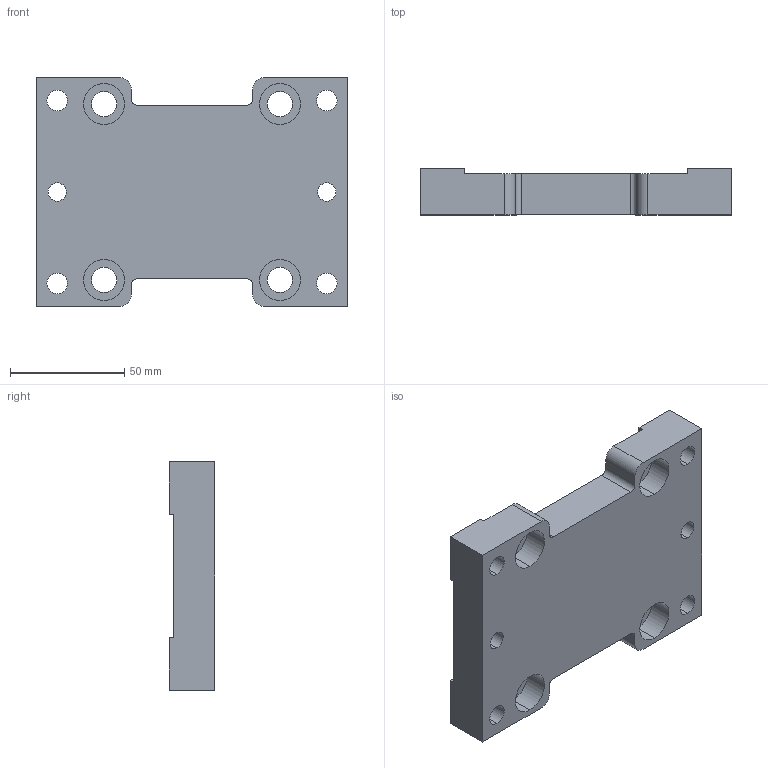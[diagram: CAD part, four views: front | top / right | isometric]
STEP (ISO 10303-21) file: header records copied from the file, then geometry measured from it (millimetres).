
FILE_DESCRIPTION (( 'STEP AP203' ), '1' );
FILE_NAME ('T80S.step', '2017-02-15T12:26:28', ( '' ), ( '' ), 'SwSTEP 2.0', 'SolidWorks 2012', '' );
FILE_SCHEMA (( 'CONFIG_CONTROL_DESIGN' ));
Length unit declared in the file: millimetre
Products named in the file (1): T80S
Bounding box: 136 x 20 x 100 mm (x, y, z)
Volume: 200709.3 mm3; surface area: 40190.7 mm2
Topology: 1 solids, 1 shells, 78 faces, 204 edges, 136 vertices
Faces by surface type: cylinder 44, plane 34
Entity records: 2553 total; most frequent: DIRECTION 450, CARTESIAN_POINT 419, ORIENTED_EDGE 408, EDGE_CURVE 204, AXIS2_PLACEMENT_3D 167, VERTEX_POINT 136, LINE 116, VECTOR 116
